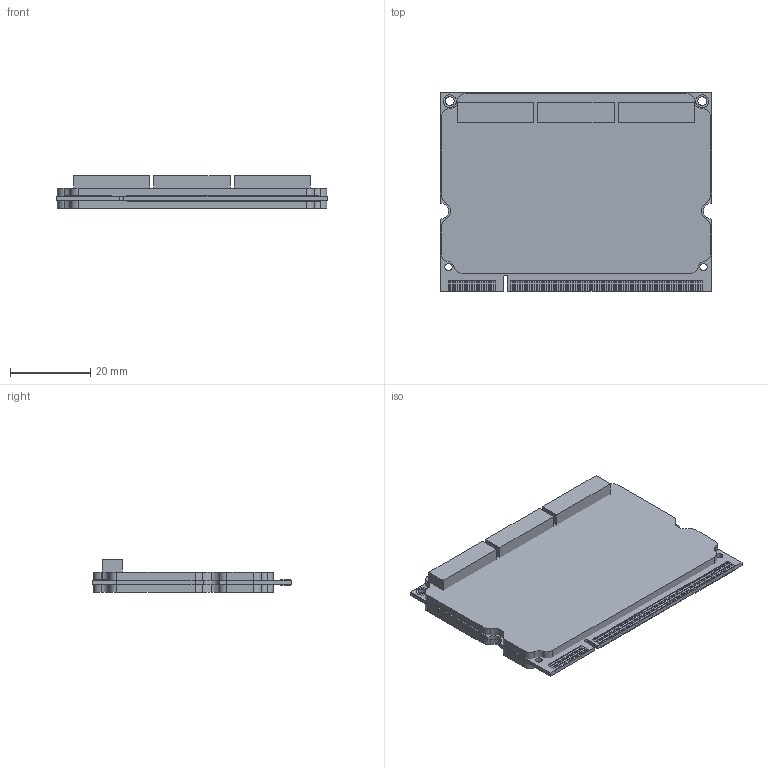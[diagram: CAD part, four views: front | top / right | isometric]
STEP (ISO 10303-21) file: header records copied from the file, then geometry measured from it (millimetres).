
FILE_DESCRIPTION(('CATIA V5 STEP Exchange'),'2;1');
FILE_NAME('\\server-nufotec\Projekt-Kunder\Embedded-Artists\Temp\2019-10-16\163415-934-IMX-RT10X2-OEM-BOARD-REV-B1-LONG-ASSY-2019-10-16.stp','2019-10-16T06:05:04+00:00',('none'),('none'),'CATIA Version 5 Release 19 GA (IN-10)','CATIA V5 STEP AP214','none');
FILE_SCHEMA(('AUTOMOTIVE_DESIGN { 1 0 10303 214 1 1 1 1 }'));
Length unit declared in the file: millimetre
Products named in the file (1): 163415-934-IMX-RT10X2-OEM-BOARD-REV-B1-LONG-ASSY-2019-10-16
Bounding box: 67.6 x 49.5 x 8.1 mm (x, y, z)
Volume: 19629.4 mm3; surface area: 16328.3 mm2
Topology: 9 solids, 9 shells, 1127 faces, 3445 edges, 2336 vertices
Faces by surface type: plane 846, cylinder 281
Entity records: 35627 total; most frequent: ORIENTED_EDGE 6890, CARTESIAN_POINT 6448, DIRECTION 4777, EDGE_CURVE 3445, VERTEX_POINT 2336, VECTOR 2171, LINE 2171, AXIS2_PLACEMENT_3D 1941
